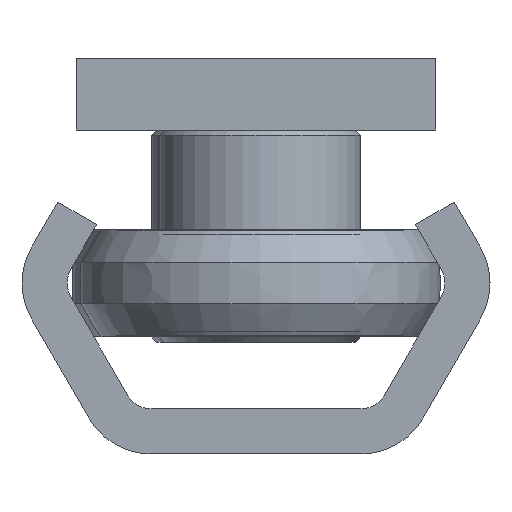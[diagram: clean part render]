
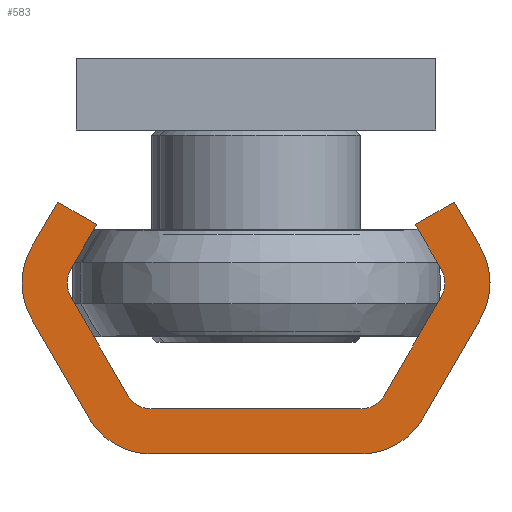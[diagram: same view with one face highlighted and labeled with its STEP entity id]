
A CAD part, left-side view. The second image highlights one B-rep face of the part: STEP entity #583.
In plain terms, the highlighted planar face has unit normal (-1, 0, 0).
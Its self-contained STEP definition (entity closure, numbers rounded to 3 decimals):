
#583 = ADVANCED_FACE( '', ( #1183 ), #1184, .F. );
#1183 = FACE_OUTER_BOUND( '', #1965, .T. );
#1184 = PLANE( '', #1966 );
#1965 = EDGE_LOOP( '', ( #3037, #3038, #3039, #3040, #3041, #3042, #3043, #3044, #3045, #3046, #3047, #3048, #3049, #3050, #3051, #3052, #3053, #3054, #3055, #3056 ) );
#1966 = AXIS2_PLACEMENT_3D( '', #3057, #3058, #3059 );
#3037 = ORIENTED_EDGE( '', *, *, #3310, .F. );
#3038 = ORIENTED_EDGE( '', *, *, #3471, .F. );
#3039 = ORIENTED_EDGE( '', *, *, #3484, .F. );
#3040 = ORIENTED_EDGE( '', *, *, #3387, .F. );
#3041 = ORIENTED_EDGE( '', *, *, #3528, .F. );
#3042 = ORIENTED_EDGE( '', *, *, #3269, .F. );
#3043 = ORIENTED_EDGE( '', *, *, #3413, .F. );
#3044 = ORIENTED_EDGE( '', *, *, #3481, .T. );
#3045 = ORIENTED_EDGE( '', *, *, #3578, .F. );
#3046 = ORIENTED_EDGE( '', *, *, #3546, .T. );
#3047 = ORIENTED_EDGE( '', *, *, #3193, .F. );
#3048 = ORIENTED_EDGE( '', *, *, #3551, .T. );
#3049 = ORIENTED_EDGE( '', *, *, #3371, .F. );
#3050 = ORIENTED_EDGE( '', *, *, #3490, .T. );
#3051 = ORIENTED_EDGE( '', *, *, #3343, .F. );
#3052 = ORIENTED_EDGE( '', *, *, #3596, .F. );
#3053 = ORIENTED_EDGE( '', *, *, #3509, .F. );
#3054 = ORIENTED_EDGE( '', *, *, #3478, .F. );
#3055 = ORIENTED_EDGE( '', *, *, #3375, .F. );
#3056 = ORIENTED_EDGE( '', *, *, #3576, .F. );
#3057 = CARTESIAN_POINT( '', ( 0., -5.825, -4. ) );
#3058 = DIRECTION( '', ( 1., 0., 0. ) );
#3059 = DIRECTION( '', ( 0., 0., -1. ) );
#3193 = EDGE_CURVE( '', #3636, #3637, #3638, .T. );
#3269 = EDGE_CURVE( '', #3765, #3766, #3767, .T. );
#3310 = EDGE_CURVE( '', #3837, #3838, #3839, .T. );
#3343 = EDGE_CURVE( '', #3893, #3894, #3895, .T. );
#3371 = EDGE_CURVE( '', #3935, #3936, #3937, .T. );
#3375 = EDGE_CURVE( '', #3941, #3942, #3943, .T. );
#3387 = EDGE_CURVE( '', #3959, #3960, #3961, .T. );
#3413 = EDGE_CURVE( '', #3997, #3765, #3998, .T. );
#3471 = EDGE_CURVE( '', #4080, #3837, #4081, .T. );
#3478 = EDGE_CURVE( '', #3942, #4090, #4091, .T. );
#3481 = EDGE_CURVE( '', #3997, #4094, #4095, .T. );
#3484 = EDGE_CURVE( '', #3960, #4080, #4098, .T. );
#3490 = EDGE_CURVE( '', #3935, #3894, #4104, .T. );
#3509 = EDGE_CURVE( '', #4090, #4127, #4128, .T. );
#3528 = EDGE_CURVE( '', #3766, #3959, #4155, .T. );
#3546 = EDGE_CURVE( '', #4176, #3637, #4177, .T. );
#3551 = EDGE_CURVE( '', #3636, #3936, #4182, .T. );
#3576 = EDGE_CURVE( '', #3838, #3941, #4210, .T. );
#3578 = EDGE_CURVE( '', #4176, #4094, #4212, .T. );
#3596 = EDGE_CURVE( '', #4127, #3893, #4232, .T. );
#3636 = VERTEX_POINT( '', #4273 );
#3637 = VERTEX_POINT( '', #4274 );
#3638 = LINE( '', #4275, #4276 );
#3765 = VERTEX_POINT( '', #4432 );
#3766 = VERTEX_POINT( '', #4433 );
#3767 = LINE( '', #4434, #4435 );
#3837 = VERTEX_POINT( '', #4524 );
#3838 = VERTEX_POINT( '', #4525 );
#3839 = LINE( '', #4526, #4527 );
#3893 = VERTEX_POINT( '', #4599 );
#3894 = VERTEX_POINT( '', #4600 );
#3895 = LINE( '', #4601, #4602 );
#3935 = VERTEX_POINT( '', #4653 );
#3936 = VERTEX_POINT( '', #4654 );
#3937 = LINE( '', #4655, #4656 );
#3941 = VERTEX_POINT( '', #4662 );
#3942 = VERTEX_POINT( '', #4663 );
#3943 = LINE( '', #4664, #4665 );
#3959 = VERTEX_POINT( '', #4684 );
#3960 = VERTEX_POINT( '', #4685 );
#3961 = CIRCLE( '', #4686, 4. );
#3997 = VERTEX_POINT( '', #4727 );
#3998 = LINE( '', #4728, #4729 );
#4080 = VERTEX_POINT( '', #4819 );
#4081 = CIRCLE( '', #4820, 4. );
#4090 = VERTEX_POINT( '', #4830 );
#4091 = CIRCLE( '', #4831, 4. );
#4094 = VERTEX_POINT( '', #4835 );
#4095 = CIRCLE( '', #4836, 1.5 );
#4098 = LINE( '', #4840, #4841 );
#4104 = CIRCLE( '', #4847, 1.5 );
#4127 = VERTEX_POINT( '', #4876 );
#4128 = LINE( '', #4877, #4878 );
#4155 = LINE( '', #4909, #4910 );
#4176 = VERTEX_POINT( '', #4934 );
#4177 = CIRCLE( '', #4935, 1.5 );
#4182 = CIRCLE( '', #4941, 1.5 );
#4210 = CIRCLE( '', #4973, 4. );
#4212 = LINE( '', #4975, #4976 );
#4232 = LINE( '', #4996, #4997 );
#4273 = CARTESIAN_POINT( '', ( 0., -5.825, -2.5 ) );
#4274 = CARTESIAN_POINT( '', ( 0., 5.825, -2.5 ) );
#4275 = CARTESIAN_POINT( '', ( 0., -5.825, -2.5 ) );
#4276 = VECTOR( '', #5044, 1000. );
#4432 = CARTESIAN_POINT( '', ( 0., 8.856, -12.75 ) );
#4433 = CARTESIAN_POINT( '', ( 0., 11.021, -14. ) );
#4434 = CARTESIAN_POINT( '', ( 0., 8.856, -12.75 ) );
#4435 = VECTOR( '', #5167, 1000. );
#4524 = CARTESIAN_POINT( '', ( 0., 5.825, 0. ) );
#4525 = CARTESIAN_POINT( '', ( 0., -5.825, 0. ) );
#4526 = CARTESIAN_POINT( '', ( 0., 5.825, 0. ) );
#4527 = VECTOR( '', #5223, 1000. );
#4599 = CARTESIAN_POINT( '', ( 0., -8.856, -12.75 ) );
#4600 = CARTESIAN_POINT( '', ( 0., -10.299, -10.25 ) );
#4601 = CARTESIAN_POINT( '', ( 0., -8.856, -12.75 ) );
#4602 = VECTOR( '', #5269, 1000. );
#4653 = CARTESIAN_POINT( '', ( 0., -10.299, -8.75 ) );
#4654 = CARTESIAN_POINT( '', ( 0., -7.124, -3.25 ) );
#4655 = CARTESIAN_POINT( '', ( 0., -10.299, -8.75 ) );
#4656 = VECTOR( '', #5305, 1000. );
#4662 = CARTESIAN_POINT( '', ( 0., -9.289, -2. ) );
#4663 = CARTESIAN_POINT( '', ( 0., -12.464, -7.5 ) );
#4664 = CARTESIAN_POINT( '', ( 0., -9.289, -2. ) );
#4665 = VECTOR( '', #5308, 1000. );
#4684 = CARTESIAN_POINT( '', ( 0., 12.464, -11.5 ) );
#4685 = CARTESIAN_POINT( '', ( 0., 12.464, -7.5 ) );
#4686 = AXIS2_PLACEMENT_3D( '', #5324, #5325, #5326 );
#4727 = CARTESIAN_POINT( '', ( 0., 10.299, -10.25 ) );
#4728 = CARTESIAN_POINT( '', ( 0., 10.299, -10.25 ) );
#4729 = VECTOR( '', #5362, 1000. );
#4819 = CARTESIAN_POINT( '', ( 0., 9.289, -2. ) );
#4820 = AXIS2_PLACEMENT_3D( '', #5452, #5453, #5454 );
#4830 = CARTESIAN_POINT( '', ( 0., -12.464, -11.5 ) );
#4831 = AXIS2_PLACEMENT_3D( '', #5462, #5463, #5464 );
#4835 = CARTESIAN_POINT( '', ( 0., 10.299, -8.75 ) );
#4836 = AXIS2_PLACEMENT_3D( '', #5466, #5467, #5468 );
#4840 = CARTESIAN_POINT( '', ( 0., 12.464, -7.5 ) );
#4841 = VECTOR( '', #5470, 1000. );
#4847 = AXIS2_PLACEMENT_3D( '', #5474, #5475, #5476 );
#4876 = CARTESIAN_POINT( '', ( 0., -11.021, -14. ) );
#4877 = CARTESIAN_POINT( '', ( 0., -12.464, -11.5 ) );
#4878 = VECTOR( '', #5492, 1000. );
#4909 = CARTESIAN_POINT( '', ( 0., 11.021, -14. ) );
#4910 = VECTOR( '', #5521, 1000. );
#4934 = CARTESIAN_POINT( '', ( 0., 7.124, -3.25 ) );
#4935 = AXIS2_PLACEMENT_3D( '', #5534, #5535, #5536 );
#4941 = AXIS2_PLACEMENT_3D( '', #5538, #5539, #5540 );
#4973 = AXIS2_PLACEMENT_3D( '', #5566, #5567, #5568 );
#4975 = CARTESIAN_POINT( '', ( 0., 7.124, -3.25 ) );
#4976 = VECTOR( '', #5569, 1000. );
#4996 = CARTESIAN_POINT( '', ( 0., -11.021, -14. ) );
#4997 = VECTOR( '', #5582, 1000. );
#5044 = DIRECTION( '', ( 0., 1., 0. ) );
#5167 = DIRECTION( '', ( 0., 0.866, -0.5 ) );
#5223 = DIRECTION( '', ( 0., -1., 0. ) );
#5269 = DIRECTION( '', ( 0., -0.5, 0.866 ) );
#5305 = DIRECTION( '', ( 0., 0.5, 0.866 ) );
#5308 = DIRECTION( '', ( 0., -0.5, -0.866 ) );
#5324 = CARTESIAN_POINT( '', ( 0., 9., -9.5 ) );
#5325 = DIRECTION( '', ( 1., 0., 0. ) );
#5326 = DIRECTION( '', ( 0., 0., -1. ) );
#5362 = DIRECTION( '', ( 0., -0.5, -0.866 ) );
#5452 = CARTESIAN_POINT( '', ( 0., 5.825, -4. ) );
#5453 = DIRECTION( '', ( 1., 0., 0. ) );
#5454 = DIRECTION( '', ( 0., 0., -1. ) );
#5462 = CARTESIAN_POINT( '', ( 0., -9., -9.5 ) );
#5463 = DIRECTION( '', ( 1., 0., 0. ) );
#5464 = DIRECTION( '', ( 0., 0., -1. ) );
#5466 = CARTESIAN_POINT( '', ( 0., 9., -9.5 ) );
#5467 = DIRECTION( '', ( 1., 0., 0. ) );
#5468 = DIRECTION( '', ( 0., 0., -1. ) );
#5470 = DIRECTION( '', ( 0., -0.5, 0.866 ) );
#5474 = CARTESIAN_POINT( '', ( 0., -9., -9.5 ) );
#5475 = DIRECTION( '', ( 1., 0., 0. ) );
#5476 = DIRECTION( '', ( 0., 0., -1. ) );
#5492 = DIRECTION( '', ( 0., 0.5, -0.866 ) );
#5521 = DIRECTION( '', ( 0., 0.5, 0.866 ) );
#5534 = CARTESIAN_POINT( '', ( 0., 5.825, -4. ) );
#5535 = DIRECTION( '', ( 1., 0., 0. ) );
#5536 = DIRECTION( '', ( 0., 0., -1. ) );
#5538 = CARTESIAN_POINT( '', ( 0., -5.825, -4. ) );
#5539 = DIRECTION( '', ( 1., 0., 0. ) );
#5540 = DIRECTION( '', ( 0., 0., -1. ) );
#5566 = CARTESIAN_POINT( '', ( 0., -5.825, -4. ) );
#5567 = DIRECTION( '', ( 1., 0., 0. ) );
#5568 = DIRECTION( '', ( 0., 0., -1. ) );
#5569 = DIRECTION( '', ( 0., 0.5, -0.866 ) );
#5582 = DIRECTION( '', ( 0., 0.866, 0.5 ) );
